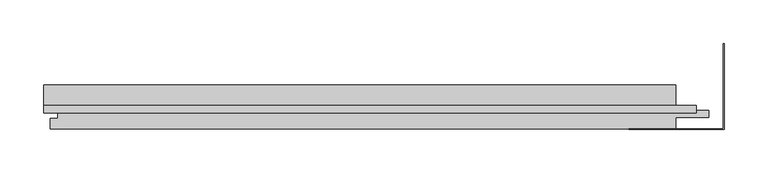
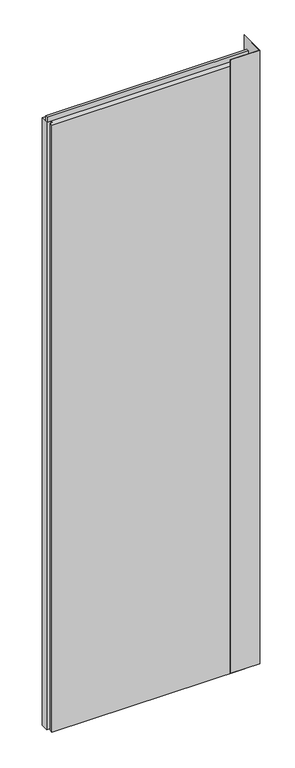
"""IFC4 building model written with IfcOpenShell, lengths in millimetres: plate geometry, Trimo_Qbiss Screen_Normal Panel-VERTICAL : HR - B."""

import ifcopenshell
import ifcopenshell.guid

model = None  # the IFC model being written
_history = None  # IfcOwnerHistory: only IFC2X3 demands one
_inside = {}  # id of a spatial element -> (the spatial element, [elements in it])
_under = {}  # id of a project, library or spatial element -> (it, [spatial elements below it])
_declared = {}  # id of a project -> (the project, [libraries it declares])
_typed = {}  # id of a type object -> (the type object, [elements of that type])
_made_of = {}  # id of a material, layer set ... -> (it, [elements and type objects made of it])


def new_model(schema):
    """Start an empty IFC model of exactly this schema.

    Asked for "IFC4X3", IfcOpenShell would pick the latest addendum, in which some entities
    have other attributes; the version numbers below select the first issue.
    IFC2X3 requires an IfcOwnerHistory on every rooted entity: one is made here for all.
    """
    global model, _history
    if schema == "IFC4X3":
        model = ifcopenshell.file(schema_version=(4, 3, 0, 0))
    else:
        model = ifcopenshell.file(schema=schema)
    _inside.clear()
    _under.clear()
    _declared.clear()
    _typed.clear()
    _made_of.clear()
    _history = None
    if model.schema == "IFC2X3":
        org = make("IfcOrganization", Name="unknown")
        user = make(
            "IfcPersonAndOrganization",
            ThePerson=make("IfcPerson", FamilyName="unknown"),
            TheOrganization=org,
        )
        app = make(
            "IfcApplication",
            ApplicationDeveloper=org,
            Version="unknown",
            ApplicationFullName="unknown",
            ApplicationIdentifier="unknown",
        )
        _history = make(
            "IfcOwnerHistory",
            OwningUser=user,
            OwningApplication=app,
            ChangeAction="ADDED",
            CreationDate=0,
        )
    return model


def make(cls, **values):
    """One entity of the class cls with the attributes given. An attribute that is None is left unset."""
    return model.create_entity(
        cls, **{name: value for name, value in values.items() if value is not None}
    )


def rooted(cls, **values):
    """An entity with a GlobalId (a new one), such as an element, a storey or a relation."""
    return make(cls, GlobalId=ifcopenshell.guid.new(), OwnerHistory=_history, **values)


def si_unit(unit_type, name, prefix=None):
    """IfcSIUnit, for example si_unit("LENGTHUNIT", "METRE", prefix="MILLI")."""
    return make("IfcSIUnit", UnitType=unit_type, Prefix=prefix, Name=name)


def assignment(units):
    """IfcUnitAssignment: the units of a project."""
    return None if units is None else make("IfcUnitAssignment", Units=units)


def point(xyz):
    """IfcCartesianPoint."""
    return None if xyz is None else make("IfcCartesianPoint", Coordinates=xyz)


def direction(xyz):
    """IfcDirection."""
    return None if xyz is None else make("IfcDirection", DirectionRatios=xyz)


def frame(location, z_axis=None, x_axis=None):
    """IfcAxis2Placement3D, a coordinate frame: its origin and axes. An axis left out is left unset."""
    return make(
        "IfcAxis2Placement3D",
        Location=point(location),
        Axis=direction(z_axis),
        RefDirection=direction(x_axis),
    )


def origin():
    """The frame at (0, 0, 0) with its axes left unset."""
    return frame((0.0, 0.0, 0.0))


def place(relative_to, where):
    """IfcLocalPlacement: puts the frame where relative to a parent placement (None: the world)."""
    return make(
        "IfcLocalPlacement", PlacementRelTo=relative_to, RelativePlacement=where
    )


def context(
    kind, dimensions, precision=None, world=None, true_north=None, identifier=None
):
    """IfcGeometricRepresentationContext, for example the 3D "Model" context."""
    return make(
        "IfcGeometricRepresentationContext",
        ContextIdentifier=identifier,
        ContextType=kind,
        CoordinateSpaceDimension=dimensions,
        Precision=precision,
        WorldCoordinateSystem=world,
        TrueNorth=true_north,
    )


def project(units=None, contexts=None):
    """IfcProject with its units and contexts."""
    return rooted(
        "IfcProject",
        Name="project",
        RepresentationContexts=contexts,
        UnitsInContext=assignment(units),
    )


def spatial(cls, under=None, at=None, **own):
    """A site, building, storey or space (cls), placed at a placement, below another one or the project."""
    s = rooted(cls, ObjectPlacement=at, **own)
    if under is not None:
        _under.setdefault(under.id(), (under, []))[1].append(s)
    return s


def polyline(points):
    """IfcPolyline through the points."""
    return make("IfcPolyline", Points=[point(p) for p in points])


def outline(outer, holes=None, kind="AREA"):
    """IfcArbitraryClosedProfileDef: a profile drawn as a closed curve; with holes, ...WithVoids."""
    if holes is None:
        return make("IfcArbitraryClosedProfileDef", ProfileType=kind, OuterCurve=outer)
    return make(
        "IfcArbitraryProfileDefWithVoids",
        ProfileType=kind,
        OuterCurve=outer,
        InnerCurves=holes,
    )


def extrude(swept, where, along, depth):
    """IfcExtrudedAreaSolid: the profile swept, set in the frame where, extruded along a direction by depth."""
    return make(
        "IfcExtrudedAreaSolid",
        SweptArea=swept,
        Position=where,
        ExtrudedDirection=direction(along),
        Depth=depth,
    )


def shape(context_of_items, identifier, shape_type, items):
    """IfcShapeRepresentation: the items that make up one representation, for example the "Body"."""
    return make(
        "IfcShapeRepresentation",
        ContextOfItems=context_of_items,
        RepresentationIdentifier=identifier,
        RepresentationType=shape_type,
        Items=items,
    )


def source(mapping_origin, context_of_items, identifier, shape_type, items):
    """IfcRepresentationMap: a shape defined once, which mapped items show again and again."""
    return make(
        "IfcRepresentationMap",
        MappingOrigin=mapping_origin,
        MappedRepresentation=shape(context_of_items, identifier, shape_type, items),
    )


def transform(
    local_origin,
    x_axis=None,
    y_axis=None,
    z_axis=None,
    scale=None,
    scale2=None,
    scale3=None,
    uniform=True,
):
    """IfcCartesianTransformationOperator3D, or its non-uniform kind. x_axis, y_axis, z_axis: its Axis1, 2, 3."""
    if uniform:
        return make(
            "IfcCartesianTransformationOperator3D",
            Axis1=direction(x_axis),
            Axis2=direction(y_axis),
            LocalOrigin=point(local_origin),
            Scale=scale,
            Axis3=direction(z_axis),
        )
    return make(
        "IfcCartesianTransformationOperator3DnonUniform",
        Axis1=direction(x_axis),
        Axis2=direction(y_axis),
        LocalOrigin=point(local_origin),
        Scale=scale,
        Axis3=direction(z_axis),
        Scale2=scale2,
        Scale3=scale3,
    )


def mapped(mapping_source, mapping_target):
    """IfcMappedItem: shows the shape of a source again, moved by a transform."""
    return make(
        "IfcMappedItem", MappingSource=mapping_source, MappingTarget=mapping_target
    )


def made_of(thing, what):
    """Note that an element or type object is made of a material, layer set ...; save() writes the relation."""
    if what is not None:
        _made_of.setdefault(what.id(), (what, []))[1].append(thing)
    return thing


def element(
    cls,
    number,
    at=None,
    inside=None,
    cuts=None,
    type_object=None,
    material=None,
    context=None,
    identifier="Body",
    shape_type=None,
    held_by="IfcProductDefinitionShape",
    body=None,
    shapes=None,
    **own,
):
    """One element of the class cls, such as IfcWall. Its Tag is "e" and its number.

    at: its placement. inside: the storey or other place that contains it. cuts: it is an
    opening in that element (IfcRelVoidsElement). A single representation is given by context,
    identifier, shape_type and body (its items); several are given by shapes. held_by: the class
    of the entity that holds the representations. save() writes the other relations.
    """
    e = rooted(cls, Tag="e%d" % number, ObjectPlacement=at, **own)
    if body is not None:
        shapes = [shape(context, identifier, shape_type, body)]
    if shapes is not None:
        e.Representation = make(held_by, Representations=shapes)
    if inside is not None:
        _inside.setdefault(inside.id(), (inside, []))[1].append(e)
    if cuts is not None:
        rooted(
            "IfcRelVoidsElement", RelatingBuildingElement=cuts, RelatedOpeningElement=e
        )
    if type_object is not None:
        _typed.setdefault(type_object.id(), (type_object, []))[1].append(e)
    return made_of(e, material)


def aggregate(whole, parts):
    """IfcRelAggregates: a whole, such as a stair, and the parts it consists of."""
    return rooted("IfcRelAggregates", RelatingObject=whole, RelatedObjects=parts)


def save(model, path):
    """Write the relations noted so far, then the file.

    IfcRelAggregates (storeys below a building ...), IfcRelContainedInSpatialStructure (elements
    in a storey), IfcRelDefinesByType, IfcRelAssociatesMaterial and IfcRelDeclares: one each for
    every whole, place, type object, material and project.
    """
    for whole, parts in _under.values():
        aggregate(whole, parts)
    for where, things in _inside.values():
        rooted(
            "IfcRelContainedInSpatialStructure",
            RelatedElements=things,
            RelatingStructure=where,
        )
    for kind, things in _typed.values():
        rooted("IfcRelDefinesByType", RelatedObjects=things, RelatingType=kind)
    for what, things in _made_of.values():
        rooted("IfcRelAssociatesMaterial", RelatedObjects=things, RelatingMaterial=what)
    for by, libraries in _declared.values():
        rooted("IfcRelDeclares", RelatingContext=by, RelatedDefinitions=libraries)
    model.write(path)


def plate_1a8a61b6(model_context):
    return source(origin(), model_context, "Body", "SweptSolid", [
        extrude(outline(polyline([(349.0, 76.0), (349.0, 173.0), (349.8, 173.0), (349.8, 75.2), (241.0, 75.2), (241.0, 76.0), (349.0, 76.0)])), frame((0.0, 0.0, 12.5), z_axis=(0.0, 0.0, 1.0), x_axis=(1.0, 0.0, 0.0)), (0.0, 0.0, 1.0), 2400.0),
        extrude(outline(polyline([(-425.0, 93.9), (-425.0, 102.6), (318.0, 102.6), (318.0, 93.9), (-425.0, 93.9)])), frame((0.0, 0.0, 2390.5), z_axis=(0.0, 0.0, 1.0), x_axis=(1.0, 0.0, 0.0)), (0.0, 0.0, 1.0), 19.0),
        extrude(outline(polyline([(295.0, 97.0), (332.5, 97.0), (332.5, 89.0), (295.0, 89.0), (295.0, 76.0), (-418.0, 76.0), (-418.0, 88.0), (-409.5, 88.0), (-409.5, 98.0), (-425.0, 98.0), (-425.0, 126.0), (295.0, 126.0), (295.0, 97.0)])), frame((0.0, 0.0, 12.5), z_axis=(0.0, 0.0, 1.0), x_axis=(1.0, 0.0, 0.0)), (0.0, 0.0, 1.0), 2375.0),
    ])


if __name__ == "__main__":
    model = new_model("IFC4")
    model_context = context("Model", 3, world=origin())
    ifc_project = project(units=[si_unit("LENGTHUNIT", "METRE", prefix="MILLI")], contexts=[model_context])
    site = spatial("IfcSite", under=ifc_project)
    building = spatial("IfcBuilding", under=site)
    placement = place(None, origin())
    plate_shape = plate_1a8a61b6(model_context)
    element("IfcPlate", 1, ObjectType="Trimo_Qbiss Screen_Normal Panel-VERTICAL : HR - B", at=placement, inside=building, context=model_context, shape_type="MappedRepresentation", body=[
        mapped(plate_shape, transform((0.0, 0.0, 0.0), x_axis=(1.0, 0.0, 0.0), y_axis=(0.0, 1.0, 0.0), z_axis=(0.0, 0.0, 1.0))),
    ])
    save(model, "model.ifc")
